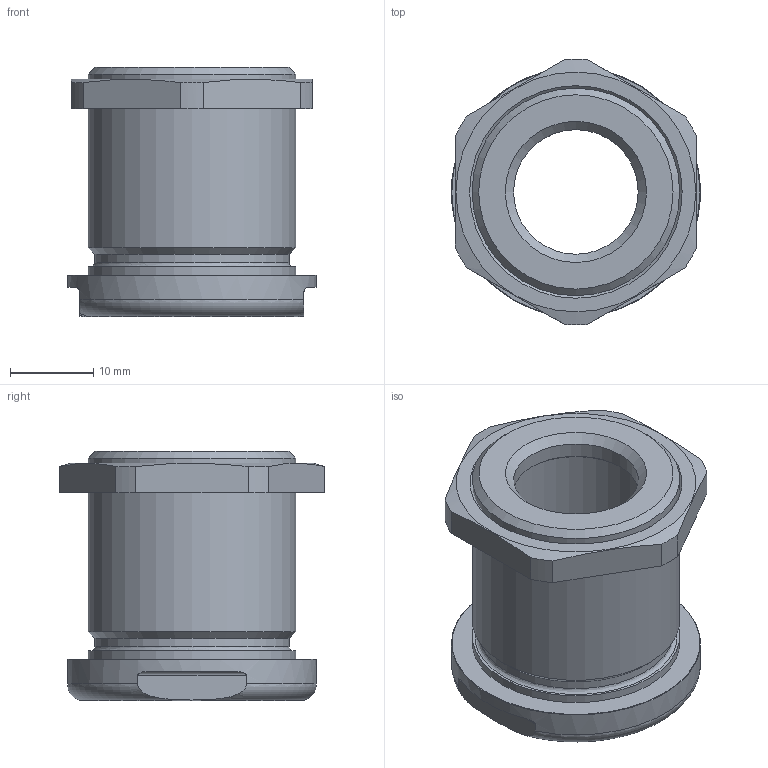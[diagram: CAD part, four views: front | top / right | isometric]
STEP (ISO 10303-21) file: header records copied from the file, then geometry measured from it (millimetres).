
FILE_DESCRIPTION(/* description */ (''),/* implementation_level */ '2;1');
FILE_NAME(/* name */ '301079-1_02_1-Befestigungsvariante_1.stp',/* time_stamp */ '2023-11-30T10:39:18+01:00',/* author */ (''),/* organization */ (''),/* preprocessor_version */ 'ST-DEVELOPER v16',/* originating_system */ 'SIEMENS PLM Software NX 11.0',/* authorisation */ '');
FILE_SCHEMA (('AP203_CONFIGURATION_CONTROLLED_3D_DESIGN_OF_MECHANICAL_PARTS_AND_ASSEMBLIES_MIM_LF { 1 0 10303 403 2 1 2}'));
Length unit declared in the file: millimetre
Products named in the file (1): kien3BF46696x9yf
Bounding box: 29.97 x 31.99 x 30 mm (x, y, z)
Volume: 8151.6 mm3; surface area: 6263.7 mm2
Topology: 2 solids, 2 shells, 49 faces, 114 edges, 72 vertices
Faces by surface type: cylinder 18, plane 17, cone 12, bspline 1, torus 1
Full cylindrical faces by diameter (mm): 15 x1, 18.5 x2, 20.4 x2, 23.4 x1, 23.6 x1, 25 x2, 30 x1
Entity records: 1499 total; most frequent: CARTESIAN_POINT 364, DIRECTION 222, ORIENTED_EDGE 174, AXIS2_PLACEMENT_3D 98, EDGE_CURVE 87, EDGE_LOOP 80, VERTEX_POINT 69, FACE_BOUND 62
